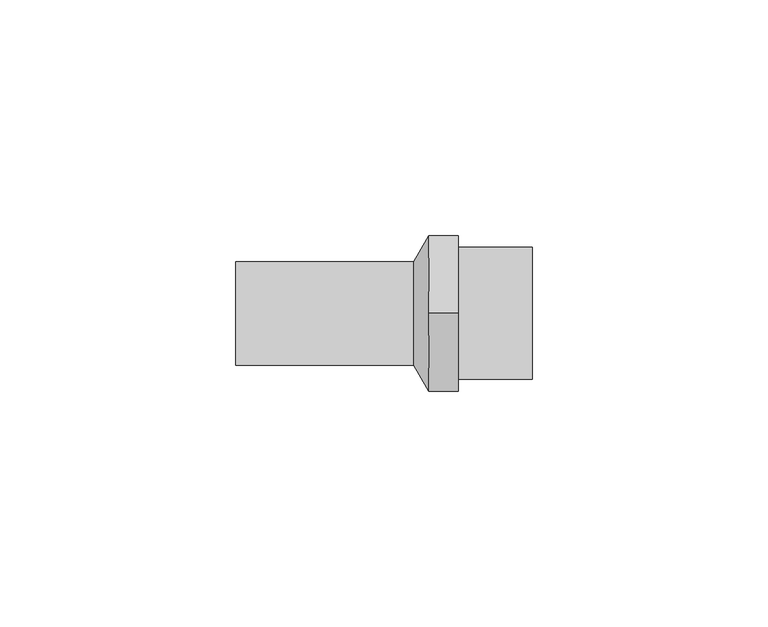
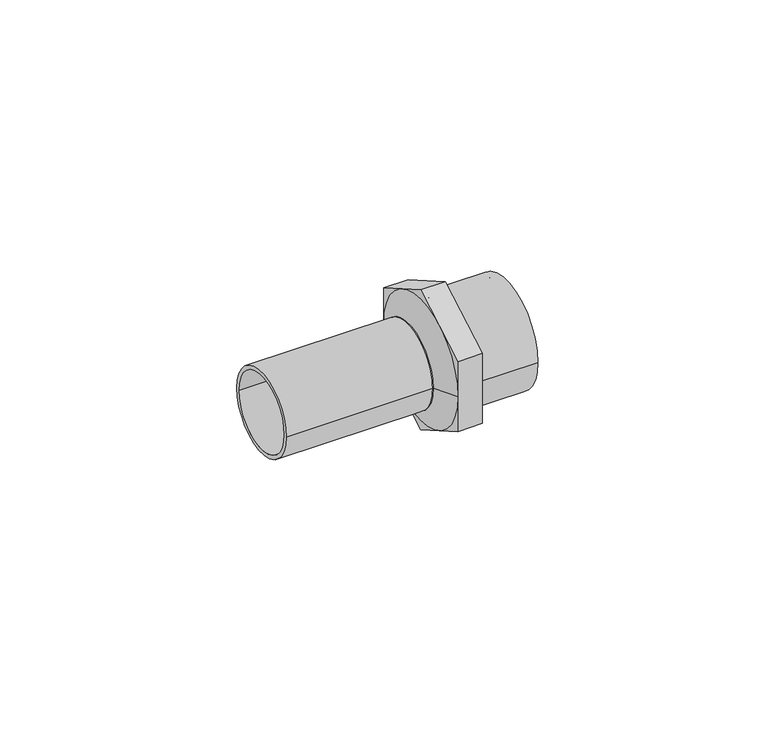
"""IFC4 building model written with IfcOpenShell, lengths in millimetres: pipe fitting geometry, VALTEC_VTi.906.I_Вставка с наружной резьбой нержавеющая сталь : VTi.906.I."""

from ifc_helpers import new_model, si_unit, point, frame, origin, origin_2d, place, context, project, spatial, polyline, circle_curve, trimmed, segment, composite_curve, outline, extrude, source, transform, mapped, element, save
from ifc_brep_helpers import plane_surface, revolved_surface, advanced_brep


def pipe_fitting_b8d0b918(model_context):
    return source(origin(), model_context, "Body", "SolidModel", [
        extrude(outline(composite_curve([segment(trimmed(circle_curve(origin_2d(), 14.0), [point((-14.0, 0.0))], [point((14.0, 0.0))], False, "CARTESIAN"), True, "CONTINUOUS"), segment(trimmed(circle_curve(origin_2d(), 14.0), [point((14.0, 0.0))], [point((-14.0, 0.0))], False, "CARTESIAN"), True, "CONTINUOUS")], self_intersect=False), holes=[composite_curve([segment(trimmed(circle_curve(origin_2d(), 12.5), [point((-12.5, 0.0))], [point((12.5, 0.0))], True, "CARTESIAN"), True, "CONTINUOUS"), segment(trimmed(circle_curve(origin_2d(), 12.5), [point((12.5, 0.0))], [point((-12.5, 0.0))], True, "CARTESIAN"), True, "CONTINUOUS")], self_intersect=False)]), frame((47.25, 0.0, 0.0), z_axis=(1.0, 0.0, 0.0), x_axis=(0.0, 1.0, 0.0)), (0.0, 0.0, 1.0), 15.75),
        advanced_brep(
        [(40.95, -16.5, 0.0), (40.95, 16.5, 0.0), (37.8, -11.0, 0.0), (37.8, 11.0, 0.0)],
        [
            (0, 1, circle_curve(frame((40.95, 0.0, 0.0), z_axis=(1.0, 0.0, 0.0), x_axis=(0.0, -1.0, 0.0)), 16.5)),
            (1, 0, circle_curve(frame((40.95, 0.0, 0.0), z_axis=(1.0, 0.0, 0.0), x_axis=(0.0, 1.0, 0.0)), 16.5)),
            (2, 3, circle_curve(frame((37.8, 0.0, 0.0), z_axis=(-1.0, 0.0, 0.0), x_axis=(0.0, 1.0, 0.0)), 11.0)),
            (3, 2, circle_curve(frame((37.8, 0.0, 0.0), z_axis=(-1.0, 0.0, 0.0), x_axis=(0.0, -1.0, 0.0)), 11.0)),
            (3, 1),
            (0, 2),
        ],
        [
            plane_surface(frame((40.95, 0.0, 0.0), z_axis=(1.0, 0.0, 0.0), x_axis=(0.0, 0.0, -1.0))),
            plane_surface(frame((37.8, 0.0, 0.0), z_axis=(-1.0, 0.0, 0.0), x_axis=(0.0, 0.0, -1.0))),
            revolved_surface(polyline([(37.8, 10.999999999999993, 0.0), (40.95, 16.5, 0.0)]), (31.5, 0.0, 0.0), (1.0, 0.0, 0.0)),
            revolved_surface(polyline([(37.8, -10.999999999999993, 0.0), (40.95, -16.5, 0.0)]), (31.5, 0.0, 0.0), (1.0, 0.0, 0.0)),
        ],
        [
            (0, [[1, 2]]),
            (1, [[3, 4]]),
            (2, [[-4, 5, -1, 6]]),
            (3, [[-3, -6, -2, -5]]),
        ],
    ),
        extrude(outline(polyline([(0.0, 19.0525589), (16.5, 9.5262794), (16.5, -9.5262794), (0.0, -19.0525589), (-16.5, -9.5262794), (-16.5, 9.5262794), (0.0, 19.0525589)]), holes=[composite_curve([segment(trimmed(circle_curve(origin_2d(), 12.5), [point((-12.5, 0.0))], [point((12.5, 0.0))], True, "CARTESIAN"), True, "CONTINUOUS"), segment(trimmed(circle_curve(origin_2d(), 12.5), [point((12.5, 0.0))], [point((-12.5, 0.0))], True, "CARTESIAN"), True, "CONTINUOUS")], self_intersect=False)]), frame((40.95, 0.0, 0.0), z_axis=(1.0, 0.0, 0.0), x_axis=(0.0, 1.0, 0.0)), (0.0, 0.0, 1.0), 6.3),
        extrude(outline(composite_curve([segment(trimmed(circle_curve(origin_2d(), 11.0), [point((-11.0, 0.0))], [point((11.0, 0.0))], False, "CARTESIAN"), True, "CONTINUOUS"), segment(trimmed(circle_curve(origin_2d(), 11.0), [point((11.0, 0.0))], [point((-11.0, 0.0))], False, "CARTESIAN"), True, "CONTINUOUS")], self_intersect=False), holes=[composite_curve([segment(trimmed(circle_curve(origin_2d(), 10.0), [point((-10.0, 0.0))], [point((10.0, 0.0))], True, "CARTESIAN"), True, "CONTINUOUS"), segment(trimmed(circle_curve(origin_2d(), 10.0), [point((10.0, 0.0))], [point((-10.0, 0.0))], True, "CARTESIAN"), True, "CONTINUOUS")], self_intersect=False)]), frame((0.0, 0.0, 0.0), z_axis=(1.0, 0.0, 0.0), x_axis=(0.0, 1.0, 0.0)), (0.0, 0.0, 1.0), 37.8),
    ])


if __name__ == "__main__":
    model = new_model("IFC4")
    model_context = context("Model", 3, world=origin())
    ifc_project = project(units=[si_unit("LENGTHUNIT", "METRE", prefix="MILLI")], contexts=[model_context])
    site = spatial("IfcSite", under=ifc_project)
    building = spatial("IfcBuilding", under=site)
    placement = place(None, origin())
    pipe_fitting_shape = pipe_fitting_b8d0b918(model_context)
    element("IfcPipeFitting", 1, ObjectType="VALTEC_VTi.906.I_Вставка с наружной резьбой нержавеющая сталь : VTi.906.I", at=placement, inside=building, context=model_context, shape_type="MappedRepresentation", body=[
        mapped(pipe_fitting_shape, transform((0.0, 0.0, 0.0), x_axis=(1.0, 0.0, 0.0), y_axis=(0.0, 1.0, 0.0), z_axis=(0.0, 0.0, 1.0))),
    ])
    save(model, "model.ifc")
